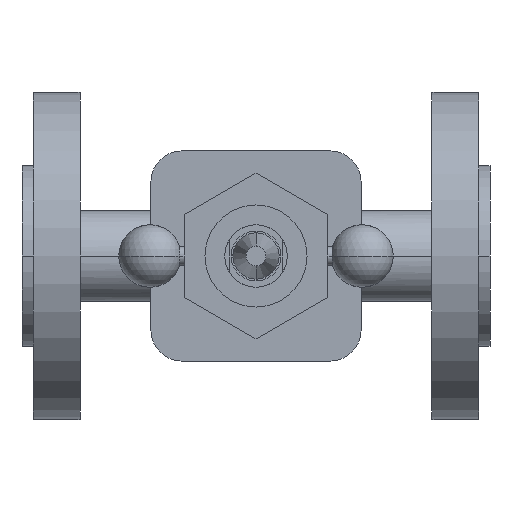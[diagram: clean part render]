
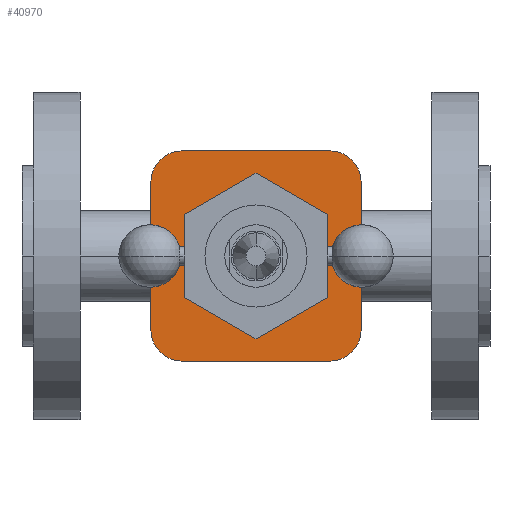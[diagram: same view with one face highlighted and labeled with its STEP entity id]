
A CAD part, front view. The second image highlights one B-rep face of the part: STEP entity #40970.
In plain terms, the highlighted planar face has unit normal (0, -1, 0).
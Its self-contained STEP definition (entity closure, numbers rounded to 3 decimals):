
#15270=CARTESIAN_POINT('',(54.,-62.,0.));
#15280=VERTEX_POINT('',#15270);
#15440=CARTESIAN_POINT('',(96.,-62.,0.));
#15450=VERTEX_POINT('',#15440);
#15480=CARTESIAN_POINT('',(75.,-62.,0.));
#15490=DIRECTION('',(0.,-1.,0.));
#15500=DIRECTION('',(-1.,0.,0.));
#15510=AXIS2_PLACEMENT_3D('',#15480,#15490,#15500);
#15520=CIRCLE('',#15510,21.);
#15530=EDGE_CURVE('',#15280,#15450,#15520,.T.);
#40170=CARTESIAN_POINT('',(42.25,-62.,0.));
#40180=DIRECTION('',(0.,-1.,0.));
#40190=DIRECTION('',(-1.,0.,0.));
#40200=AXIS2_PLACEMENT_3D('',#40170,#40180,#40190);
#40210=PLANE('',#40200);
#40220=CARTESIAN_POINT('',(51.312,-62.,23.688));
#40230=DIRECTION('',(0.,-1.,0.));
#40240=DIRECTION('',(-1.,0.,0.));
#40250=AXIS2_PLACEMENT_3D('',#40220,#40230,#40240);
#40260=CIRCLE('',#40250,10.);
#40270=CARTESIAN_POINT('',(51.312,-62.,33.688));
#40280=VERTEX_POINT('',#40270);
#40290=CARTESIAN_POINT('',(41.312,-62.,23.688));
#40300=VERTEX_POINT('',#40290);
#40310=EDGE_CURVE('',#40280,#40300,#40260,.T.);
#40320=ORIENTED_EDGE('',*,*,#40310,.T.);
#40330=CARTESIAN_POINT('',(46.781,-62.,33.688));
#40340=DIRECTION('',(-1.,0.,0.));
#40350=VECTOR('',#40340,1.);
#40360=LINE('',#40330,#40350);
#40370=CARTESIAN_POINT('',(98.688,-62.,33.688));
#40380=VERTEX_POINT('',#40370);
#40390=EDGE_CURVE('',#40380,#40280,#40360,.T.);
#40400=ORIENTED_EDGE('',*,*,#40390,.T.);
#40410=CARTESIAN_POINT('',(98.688,-62.,23.688));
#40420=DIRECTION('',(0.,-1.,0.));
#40430=DIRECTION('',(0.,0.,1.));
#40440=AXIS2_PLACEMENT_3D('',#40410,#40420,#40430);
#40450=CIRCLE('',#40440,10.);
#40460=CARTESIAN_POINT('',(108.688,-62.,23.688));
#40470=VERTEX_POINT('',#40460);
#40480=EDGE_CURVE('',#40470,#40380,#40450,.T.);
#40490=ORIENTED_EDGE('',*,*,#40480,.T.);
#40500=CARTESIAN_POINT('',(108.688,-62.,11.844));
#40510=DIRECTION('',(0.,0.,1.));
#40520=VECTOR('',#40510,1.);
#40530=LINE('',#40500,#40520);
#40540=CARTESIAN_POINT('',(108.688,-62.,-23.688));
#40550=VERTEX_POINT('',#40540);
#40560=EDGE_CURVE('',#40550,#40470,#40530,.T.);
#40570=ORIENTED_EDGE('',*,*,#40560,.T.);
#40580=CARTESIAN_POINT('',(98.688,-62.,-23.688));
#40590=DIRECTION('',(0.,-1.,0.));
#40600=DIRECTION('',(1.,0.,0.));
#40610=AXIS2_PLACEMENT_3D('',#40580,#40590,#40600);
#40620=CIRCLE('',#40610,10.);
#40630=CARTESIAN_POINT('',(98.688,-62.,-33.688));
#40640=VERTEX_POINT('',#40630);
#40650=EDGE_CURVE('',#40640,#40550,#40620,.T.);
#40660=ORIENTED_EDGE('',*,*,#40650,.T.);
#40670=CARTESIAN_POINT('',(70.469,-62.,-33.688));
#40680=DIRECTION('',(1.,0.,0.));
#40690=VECTOR('',#40680,1.);
#40700=LINE('',#40670,#40690);
#40710=CARTESIAN_POINT('',(51.312,-62.,-33.688));
#40720=VERTEX_POINT('',#40710);
#40730=EDGE_CURVE('',#40720,#40640,#40700,.T.);
#40740=ORIENTED_EDGE('',*,*,#40730,.T.);
#40750=CARTESIAN_POINT('',(51.312,-62.,-23.688));
#40760=DIRECTION('',(0.,-1.,0.));
#40770=DIRECTION('',(0.,0.,-1.));
#40780=AXIS2_PLACEMENT_3D('',#40750,#40760,#40770);
#40790=CIRCLE('',#40780,10.);
#40800=CARTESIAN_POINT('',(41.312,-62.,-23.688));
#40810=VERTEX_POINT('',#40800);
#40820=EDGE_CURVE('',#40810,#40720,#40790,.T.);
#40830=ORIENTED_EDGE('',*,*,#40820,.T.);
#40840=CARTESIAN_POINT('',(41.312,-62.,-11.844));
#40850=DIRECTION('',(0.,0.,-1.));
#40860=VECTOR('',#40850,1.);
#40870=LINE('',#40840,#40860);
#40880=EDGE_CURVE('',#40300,#40810,#40870,.T.);
#40890=ORIENTED_EDGE('',*,*,#40880,.T.);
#40900=EDGE_LOOP('',(#40890,#40830,#40740,#40660,#40570,#40490,#40400,
#40320));
#40910=FACE_OUTER_BOUND('',#40900,.T.);
#40920=EDGE_CURVE('',#15450,#15280,#15520,.T.);
#40930=ORIENTED_EDGE('',*,*,#40920,.F.);
#40940=ORIENTED_EDGE('',*,*,#15530,.F.);
#40950=EDGE_LOOP('',(#40940,#40930));
#40960=FACE_BOUND('',#40950,.T.);
#40970=ADVANCED_FACE('',(#40910,#40960),#40210,.T.);
